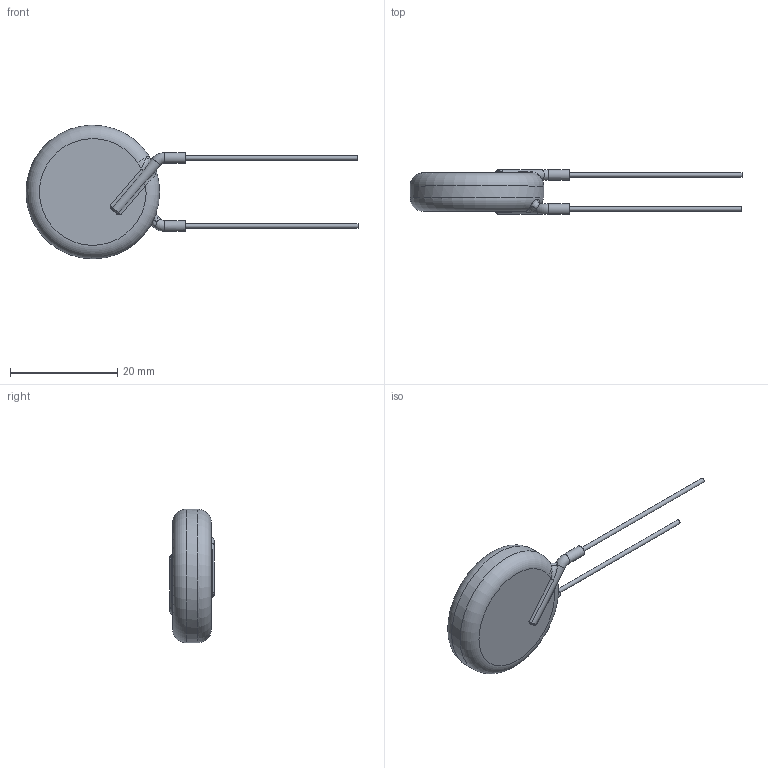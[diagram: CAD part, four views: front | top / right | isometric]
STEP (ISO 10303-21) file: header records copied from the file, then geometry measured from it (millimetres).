
FILE_DESCRIPTION((''),'2;1');
FILE_NAME('I:\Marketing\M6t1\3D-Models\Zchng-Werk-3\Upload for homepage\Ceramite\Y5R-10kV\615R100GATD25\615R100GATD25.stp','2015-08-28T15:15:21',(''),(''),'Autodesk Inventor 2013','Autodesk Inventor 2013','');
FILE_SCHEMA(('AUTOMOTIVE_DESIGN { 1 0 10303 214 1 1 1 1 }'));
Length unit declared in the file: centimetre
Products named in the file (1): 615R100GATD25
Bounding box: 61.9 x 8.38 x 24.9 mm (x, y, z)
Volume: 3408.1 mm3; surface area: 1624.6 mm2
Topology: 1 solids, 1 shells, 46 faces, 104 edges, 58 vertices
Faces by surface type: bspline 14, cylinder 13, torus 11, plane 8
Full cylindrical faces by diameter (mm): 0.81 x2, 1.98 x2, 24.9 x1
Entity records: 1632 total; most frequent: CARTESIAN_POINT 717, ORIENTED_EDGE 164, DIRECTION 160, EDGE_CURVE 82, AXIS2_PLACEMENT_3D 74, EDGE_LOOP 56, VERTEX_POINT 50, STYLED_ITEM 46
